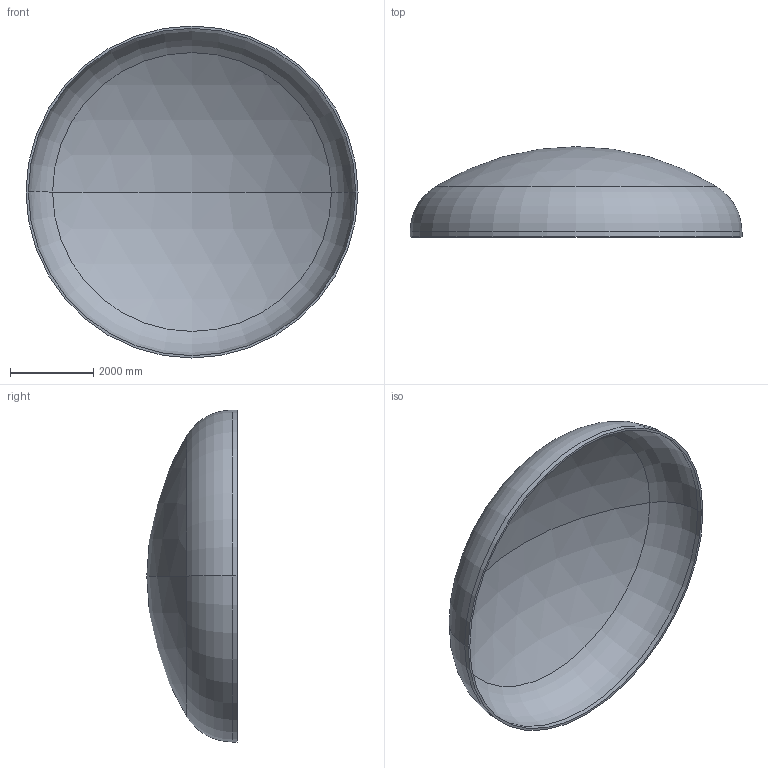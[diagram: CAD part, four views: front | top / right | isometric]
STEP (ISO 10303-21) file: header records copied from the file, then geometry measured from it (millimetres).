
FILE_DESCRIPTION (( 'STEP AP203' ), '1' );
FILE_NAME ('DIN 28013 Korbbogenform_-_Boden DIN 28013 - 8000 x 120 - I - s=56.step', '2016-07-04T11:02:42', ( '' ), ( '' ), 'SwSTEP 2.0', 'SolidWorks 2013', '' );
FILE_SCHEMA (( 'CONFIG_CONTROL_DESIGN' ));
Length unit declared in the file: millimetre
Products named in the file (1): DIN 28013 Korbbogenform_-_Boden DIN 28013 - 8000 x 120 - I - s=56
Bounding box: 8000 x 2175.65 x 8000 mm (x, y, z)
Volume: 4029168126 mm3; surface area: 145302954.6 mm2
Topology: 1 solids, 1 shells, 13 faces, 24 edges, 14 vertices
Faces by surface type: torus 4, cylinder 4, sphere 4, plane 1
Entity records: 407 total; most frequent: DIRECTION 72, CARTESIAN_POINT 52, ORIENTED_EDGE 48, AXIS2_PLACEMENT_3D 34, EDGE_CURVE 24, CIRCLE 20, VERTEX_POINT 14, EDGE_LOOP 14
